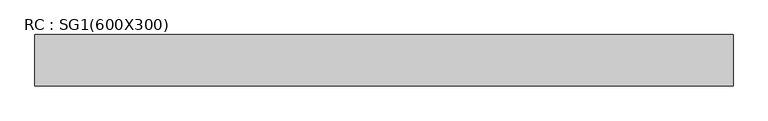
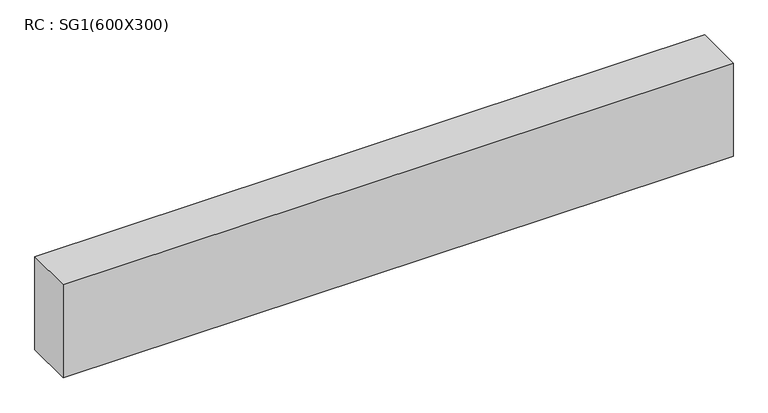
"""IFC4 building model written with IfcOpenShell, lengths in millimetres: beam geometry, RC : SG1(600X300)."""

from ifc_helpers import new_model, si_unit, frame, origin, place, context, project, spatial, polyline, outline, extrude, source, transform, mapped, element, save


def rc_sg1_600x300_946a8f95(model_context):
    return source(origin(), model_context, "Body", "SweptSolid", [
        extrude(outline(polyline([(2044.9999994, 150.0), (2044.9999994, -150.0), (-2044.9999994, -150.0), (-2044.9999994, 150.0), (2044.9999994, 150.0)])), frame((0.0, 0.0, -300.0), z_axis=(0.0, 0.0, 1.0), x_axis=(1.0, 0.0, 0.0)), (0.0, 0.0, 1.0), 600.0),
    ])


if __name__ == "__main__":
    model = new_model("IFC4")
    model_context = context("Model", 3, world=origin())
    ifc_project = project(units=[si_unit("LENGTHUNIT", "METRE", prefix="MILLI")], contexts=[model_context])
    site = spatial("IfcSite", under=ifc_project)
    building = spatial("IfcBuilding", under=site)
    placement = place(None, origin())
    rc_sg1_600x300_shape = rc_sg1_600x300_946a8f95(model_context)
    element("IfcBeam", 1, ObjectType="RC : SG1(600X300)", at=placement, inside=building, context=model_context, shape_type="MappedRepresentation", body=[
        mapped(rc_sg1_600x300_shape, transform((0.0, 0.0, 0.0), x_axis=(1.0, 0.0, 0.0), y_axis=(0.0, 1.0, 0.0), z_axis=(0.0, 0.0, 1.0))),
    ])
    save(model, "model.ifc")
